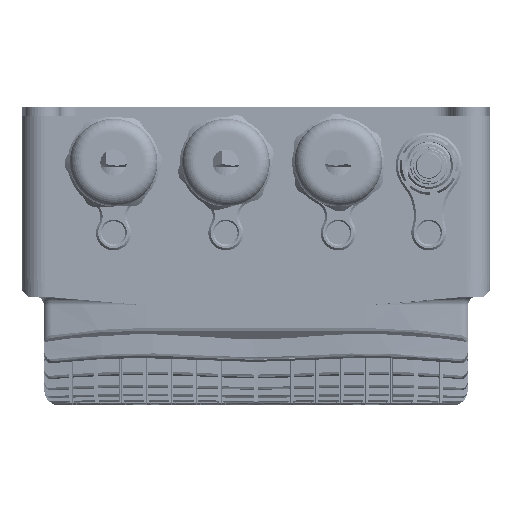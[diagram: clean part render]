
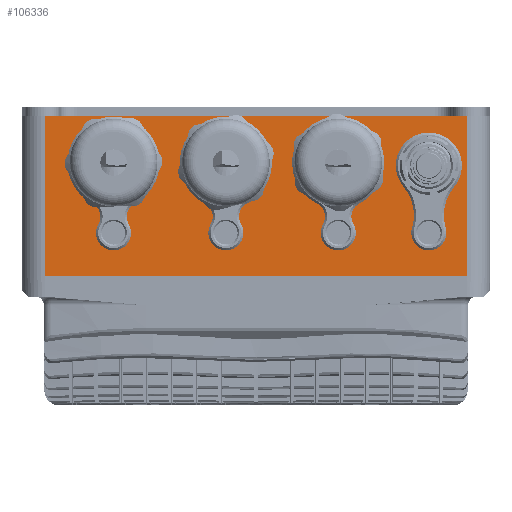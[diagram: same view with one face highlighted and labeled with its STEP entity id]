
A CAD part, front view. The second image highlights one B-rep face of the part: STEP entity #106336.
In plain terms, the highlighted planar face has unit normal (0, -1, 0).
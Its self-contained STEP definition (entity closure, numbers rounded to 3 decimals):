
#4081=FACE_BOUND('',#15163,.T.);
#4082=FACE_BOUND('',#15164,.T.);
#4083=FACE_BOUND('',#15165,.T.);
#4084=FACE_BOUND('',#15166,.T.);
#5268=PLANE('',#114354);
#8969=FACE_OUTER_BOUND('',#15162,.T.);
#15162=EDGE_LOOP('',(#76327,#76328,#76329,#76330));
#15163=EDGE_LOOP('',(#76331,#76332,#76333,#76334));
#15164=EDGE_LOOP('',(#76335,#76336,#76337,#76338));
#15165=EDGE_LOOP('',(#76339,#76340,#76341,#76342));
#15166=EDGE_LOOP('',(#76343,#76344,#76345,#76346));
#22039=LINE('',#168240,#29188);
#22063=LINE('',#168335,#29212);
#22068=LINE('',#168356,#29217);
#22159=LINE('',#168746,#29308);
#29188=VECTOR('',#132739,10.);
#29212=VECTOR('',#132851,10.);
#29217=VECTOR('',#132872,10.);
#29308=VECTOR('',#133325,10.);
#35421=CIRCLE('',#114277,15.);
#35422=CIRCLE('',#114279,11.3);
#35427=CIRCLE('',#114289,5.);
#35428=CIRCLE('',#114291,15.75);
#35433=CIRCLE('',#114301,5.);
#35434=CIRCLE('',#114303,15.75);
#35439=CIRCLE('',#114313,5.);
#35440=CIRCLE('',#114315,15.75);
#35456=CIRCLE('',#114351,15.);
#35457=CIRCLE('',#114353,6.);
#35458=CIRCLE('',#114355,5.);
#35459=CIRCLE('',#114356,6.);
#35460=CIRCLE('',#114357,5.);
#35461=CIRCLE('',#114358,6.);
#35462=CIRCLE('',#114359,5.);
#35463=CIRCLE('',#114360,6.);
#42851=VERTEX_POINT('',#168237);
#42852=VERTEX_POINT('',#168239);
#42879=VERTEX_POINT('',#168334);
#42887=VERTEX_POINT('',#168354);
#42962=VERTEX_POINT('',#168573);
#42963=VERTEX_POINT('',#168575);
#42964=VERTEX_POINT('',#168579);
#42969=VERTEX_POINT('',#168599);
#42970=VERTEX_POINT('',#168601);
#42971=VERTEX_POINT('',#168605);
#42976=VERTEX_POINT('',#168625);
#42977=VERTEX_POINT('',#168627);
#42978=VERTEX_POINT('',#168631);
#42983=VERTEX_POINT('',#168651);
#42984=VERTEX_POINT('',#168653);
#42985=VERTEX_POINT('',#168657);
#43005=VERTEX_POINT('',#168740);
#43006=VERTEX_POINT('',#168747);
#43007=VERTEX_POINT('',#168750);
#43008=VERTEX_POINT('',#168753);
#54950=EDGE_CURVE('',#42851,#42852,#22039,.T.);
#54998=EDGE_CURVE('',#42852,#42879,#22063,.T.);
#55009=EDGE_CURVE('',#42887,#42851,#22068,.T.);
#55116=EDGE_CURVE('',#42963,#42962,#35421,.T.);
#55119=EDGE_CURVE('',#42962,#42964,#35422,.T.);
#55129=EDGE_CURVE('',#42970,#42969,#35427,.T.);
#55132=EDGE_CURVE('',#42969,#42971,#35428,.T.);
#55142=EDGE_CURVE('',#42977,#42976,#35433,.T.);
#55145=EDGE_CURVE('',#42976,#42978,#35434,.T.);
#55155=EDGE_CURVE('',#42984,#42983,#35439,.T.);
#55158=EDGE_CURVE('',#42983,#42985,#35440,.T.);
#55201=EDGE_CURVE('',#42964,#43005,#35456,.T.);
#55202=EDGE_CURVE('',#43005,#42963,#35457,.T.);
#55203=EDGE_CURVE('',#42879,#42887,#22159,.T.);
#55204=EDGE_CURVE('',#42971,#43006,#35458,.T.);
#55205=EDGE_CURVE('',#43006,#42970,#35459,.T.);
#55206=EDGE_CURVE('',#42978,#43007,#35460,.T.);
#55207=EDGE_CURVE('',#43007,#42977,#35461,.T.);
#55208=EDGE_CURVE('',#42985,#43008,#35462,.T.);
#55209=EDGE_CURVE('',#43008,#42984,#35463,.T.);
#76327=ORIENTED_EDGE('',*,*,#54998,.F.);
#76328=ORIENTED_EDGE('',*,*,#54950,.F.);
#76329=ORIENTED_EDGE('',*,*,#55009,.F.);
#76330=ORIENTED_EDGE('',*,*,#55203,.F.);
#76331=ORIENTED_EDGE('',*,*,#55132,.T.);
#76332=ORIENTED_EDGE('',*,*,#55204,.T.);
#76333=ORIENTED_EDGE('',*,*,#55205,.T.);
#76334=ORIENTED_EDGE('',*,*,#55129,.T.);
#76335=ORIENTED_EDGE('',*,*,#55145,.T.);
#76336=ORIENTED_EDGE('',*,*,#55206,.T.);
#76337=ORIENTED_EDGE('',*,*,#55207,.T.);
#76338=ORIENTED_EDGE('',*,*,#55142,.T.);
#76339=ORIENTED_EDGE('',*,*,#55119,.T.);
#76340=ORIENTED_EDGE('',*,*,#55201,.T.);
#76341=ORIENTED_EDGE('',*,*,#55202,.T.);
#76342=ORIENTED_EDGE('',*,*,#55116,.T.);
#76343=ORIENTED_EDGE('',*,*,#55158,.T.);
#76344=ORIENTED_EDGE('',*,*,#55208,.T.);
#76345=ORIENTED_EDGE('',*,*,#55209,.T.);
#76346=ORIENTED_EDGE('',*,*,#55155,.T.);
#106336=ADVANCED_FACE('',(#8969,#4081,#4082,#4083,#4084),#5268,.T.);
#114277=AXIS2_PLACEMENT_3D('',#168576,#133119,#133120);
#114279=AXIS2_PLACEMENT_3D('',#168581,#133125,#133126);
#114289=AXIS2_PLACEMENT_3D('',#168602,#133150,#133151);
#114291=AXIS2_PLACEMENT_3D('',#168607,#133156,#133157);
#114301=AXIS2_PLACEMENT_3D('',#168628,#133181,#133182);
#114303=AXIS2_PLACEMENT_3D('',#168633,#133187,#133188);
#114313=AXIS2_PLACEMENT_3D('',#168654,#133212,#133213);
#114315=AXIS2_PLACEMENT_3D('',#168659,#133218,#133219);
#114351=AXIS2_PLACEMENT_3D('',#168742,#133317,#133318);
#114353=AXIS2_PLACEMENT_3D('',#168744,#133321,#133322);
#114354=AXIS2_PLACEMENT_3D('',#168745,#133323,#133324);
#114355=AXIS2_PLACEMENT_3D('',#168748,#133326,#133327);
#114356=AXIS2_PLACEMENT_3D('',#168749,#133328,#133329);
#114357=AXIS2_PLACEMENT_3D('',#168751,#133330,#133331);
#114358=AXIS2_PLACEMENT_3D('',#168752,#133332,#133333);
#114359=AXIS2_PLACEMENT_3D('',#168754,#133334,#133335);
#114360=AXIS2_PLACEMENT_3D('',#168755,#133336,#133337);
#132739=DIRECTION('',(1.,0.,0.));
#132851=DIRECTION('',(0.,0.,-1.));
#132872=DIRECTION('',(0.,0.,1.));
#133119=DIRECTION('center_axis',(0.,-1.,0.));
#133120=DIRECTION('ref_axis',(-0.958,0.,0.288));
#133125=DIRECTION('center_axis',(0.,1.,0.));
#133126=DIRECTION('ref_axis',(0.765,0.,-0.644));
#133150=DIRECTION('center_axis',(0.,-1.,0.));
#133151=DIRECTION('ref_axis',(0.863,0.,-0.505));
#133156=DIRECTION('center_axis',(0.,1.,0.));
#133157=DIRECTION('ref_axis',(-0.458,0.,
0.889));
#133181=DIRECTION('center_axis',(0.,-1.,0.));
#133182=DIRECTION('ref_axis',(-0.863,0.,
0.505));
#133187=DIRECTION('center_axis',(0.,1.,0.));
#133188=DIRECTION('ref_axis',(0.458,0.,-0.889));
#133212=DIRECTION('center_axis',(0.,-1.,0.));
#133213=DIRECTION('ref_axis',(-0.863,0.,
0.505));
#133218=DIRECTION('center_axis',(0.,1.,0.));
#133219=DIRECTION('ref_axis',(0.458,0.,-0.889));
#133317=DIRECTION('center_axis',(0.,-1.,0.));
#133318=DIRECTION('ref_axis',(0.765,0.,-0.644));
#133321=DIRECTION('center_axis',(0.,1.,0.));
#133322=DIRECTION('ref_axis',(-0.958,0.,0.288));
#133323=DIRECTION('center_axis',(0.,-1.,0.));
#133324=DIRECTION('ref_axis',(1.,0.,0.));
#133325=DIRECTION('',(-1.,0.,0.));
#133326=DIRECTION('center_axis',(0.,-1.,0.));
#133327=DIRECTION('ref_axis',(-0.458,0.,
0.889));
#133328=DIRECTION('center_axis',(0.,1.,0.));
#133329=DIRECTION('ref_axis',(0.863,0.,-0.505));
#133330=DIRECTION('center_axis',(0.,-1.,0.));
#133331=DIRECTION('ref_axis',(0.458,0.,-0.889));
#133332=DIRECTION('center_axis',(0.,1.,0.));
#133333=DIRECTION('ref_axis',(-0.863,0.,
0.505));
#133334=DIRECTION('center_axis',(0.,-1.,0.));
#133335=DIRECTION('ref_axis',(0.458,0.,-0.889));
#133336=DIRECTION('center_axis',(0.,1.,0.));
#133337=DIRECTION('ref_axis',(-0.863,0.,
0.505));
#168237=CARTESIAN_POINT('',(-72.,-92.5,40.));
#168239=CARTESIAN_POINT('',(72.,-92.5,40.));
#168240=CARTESIAN_POINT('',(-80.,-92.5,40.));
#168334=CARTESIAN_POINT('',(72.,-92.5,-14.792));
#168335=CARTESIAN_POINT('',(72.,-92.5,0.));
#168354=CARTESIAN_POINT('',(-72.,-92.5,-14.792));
#168356=CARTESIAN_POINT('',(-72.,-92.5,0.));
#168573=CARTESIAN_POINT('',(50.46,-92.5,15.742));
#168575=CARTESIAN_POINT('',(53.354,-92.5,1.754));
#168576=CARTESIAN_POINT('Origin',(38.99,-92.5,6.075));
#168579=CARTESIAN_POINT('',(67.74,-92.5,15.742));
#168581=CARTESIAN_POINT('Origin',(59.1,-92.5,23.025));
#168599=CARTESIAN_POINT('',(20.892,-92.5,10.021));
#168601=CARTESIAN_POINT('',(22.92,-92.5,3.053));
#168602=CARTESIAN_POINT('Origin',(18.603,-92.5,5.576));
#168605=CARTESIAN_POINT('',(35.308,-92.5,10.021));
#168607=CARTESIAN_POINT('Origin',(28.1,-92.5,24.025));
#168625=CARTESIAN_POINT('',(-17.508,-92.5,10.021));
#168627=CARTESIAN_POINT('',(-15.48,-92.5,3.053));
#168628=CARTESIAN_POINT('Origin',(-19.797,-92.5,5.576));
#168631=CARTESIAN_POINT('',(-3.092,-92.5,10.021));
#168633=CARTESIAN_POINT('Origin',(-10.3,-92.5,24.025));
#168651=CARTESIAN_POINT('',(-55.908,-92.5,10.021));
#168653=CARTESIAN_POINT('',(-53.88,-92.5,3.053));
#168654=CARTESIAN_POINT('Origin',(-58.197,-92.5,5.576));
#168657=CARTESIAN_POINT('',(-41.492,-92.5,10.021));
#168659=CARTESIAN_POINT('Origin',(-48.7,-92.5,24.025));
#168740=CARTESIAN_POINT('',(64.846,-92.5,1.754));
#168742=CARTESIAN_POINT('Origin',(79.21,-92.5,6.075));
#168744=CARTESIAN_POINT('Origin',(59.1,-92.5,0.025));
#168745=CARTESIAN_POINT('Origin',(-80.,-92.5,0.));
#168746=CARTESIAN_POINT('',(-80.,-92.5,-14.792));
#168747=CARTESIAN_POINT('',(33.28,-92.5,3.053));
#168748=CARTESIAN_POINT('Origin',(37.597,-92.5,5.576));
#168749=CARTESIAN_POINT('Origin',(28.1,-92.5,0.025));
#168750=CARTESIAN_POINT('',(-5.12,-92.5,3.053));
#168751=CARTESIAN_POINT('Origin',(-0.803,-92.5,
5.576));
#168752=CARTESIAN_POINT('Origin',(-10.3,-92.5,0.025));
#168753=CARTESIAN_POINT('',(-43.52,-92.5,3.053));
#168754=CARTESIAN_POINT('Origin',(-39.203,-92.5,5.576));
#168755=CARTESIAN_POINT('Origin',(-48.7,-92.5,0.025));
